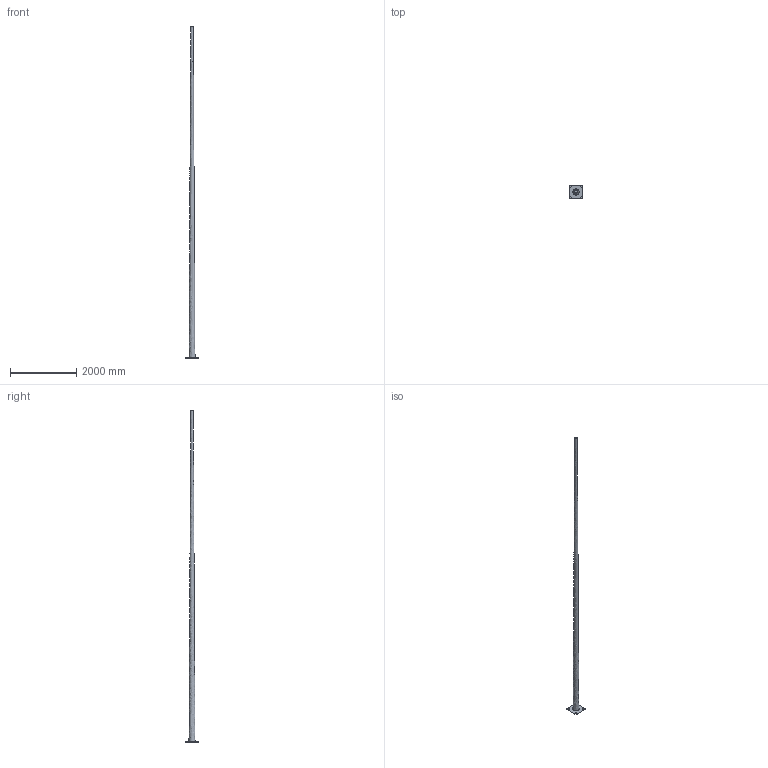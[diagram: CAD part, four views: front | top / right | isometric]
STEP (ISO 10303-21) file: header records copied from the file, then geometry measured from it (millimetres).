
FILE_DESCRIPTION(('FreeCAD Model'),'2;1');
FILE_NAME('Open CASCADE Shape Model','2024-12-18T14:50:24',(''),(''), 'Open CASCADE STEP processor 7.8','FreeCAD','Unknown');
FILE_SCHEMA(('AUTOMOTIVE_DESIGN { 1 0 10303 214 1 1 1 1 }'));
Length unit declared in the file: millimetre
Products named in the file (1): Body
Bounding box: 412 x 412 x 10000 mm (x, y, z)
Volume: 12688298.4 mm3; surface area: 8251953.4 mm2
Topology: 1 solids, 1 shells, 51 faces, 142 edges, 95 vertices
Faces by surface type: plane 32, cylinder 16, bspline 2, offset 1
Entity records: 2975 total; most frequent: CARTESIAN_POINT 1722, ORIENTED_EDGE 284, DIRECTION 198, EDGE_CURVE 142, VERTEX_POINT 95, LINE 68, VECTOR 68, AXIS2_PLACEMENT_3D 65
